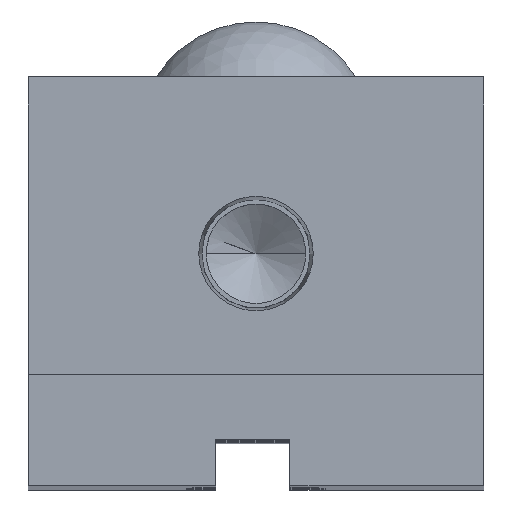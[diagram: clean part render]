
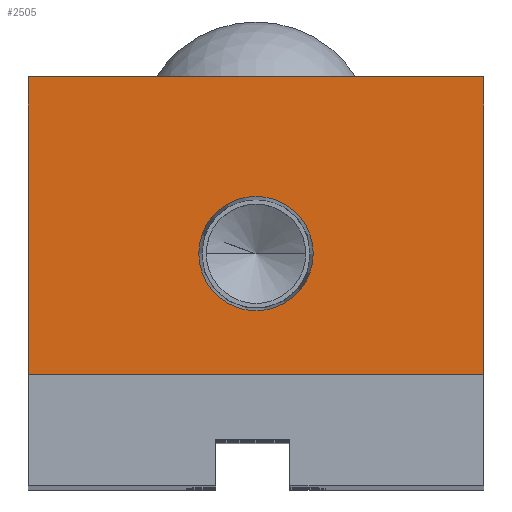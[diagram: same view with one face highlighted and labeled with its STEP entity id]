
A CAD part, top view. The second image highlights one B-rep face of the part: STEP entity #2505.
In plain terms, the highlighted planar face has unit normal (0, 0, 1).
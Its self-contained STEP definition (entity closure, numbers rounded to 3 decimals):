
#109 = DIRECTION ( 'NONE',  ( -1., 0., 0. ) ) ;
#134 = EDGE_CURVE ( 'NONE', #5770, #3938, #3999, .T. ) ;
#424 = ORIENTED_EDGE ( 'NONE', *, *, #134, .T. ) ;
#632 = DIRECTION ( 'NONE',  ( 0., 0., 1. ) ) ;
#770 = DIRECTION ( 'NONE',  ( -1., 0., 0. ) ) ;
#775 = AXIS2_PLACEMENT_3D ( 'NONE', #4853, #3510, #770 ) ;
#779 = AXIS2_PLACEMENT_3D ( 'NONE', #2403, #5568, #2871 ) ;
#1172 = ORIENTED_EDGE ( 'NONE', *, *, #2240, .T. ) ;
#1191 = LINE ( 'NONE', #4519, #3610 ) ;
#1295 = CARTESIAN_POINT ( 'NONE',  ( 6.154, 13., 0. ) ) ;
#1748 = EDGE_CURVE ( 'NONE', #5833, #4545, #5828, .T. ) ;
#1754 = VECTOR ( 'NONE', #2266, 1000. ) ;
#1757 = ORIENTED_EDGE ( 'NONE', *, *, #1748, .F. ) ;
#1815 = CARTESIAN_POINT ( 'NONE',  ( 24.5, 0., 0. ) ) ;
#1887 = LINE ( 'NONE', #1815, #1754 ) ;
#1948 = LINE ( 'NONE', #3311, #3037 ) ;
#2240 = EDGE_CURVE ( 'NONE', #3938, #3756, #1948, .T. ) ;
#2266 = DIRECTION ( 'NONE',  ( 1., 0., 0. ) ) ;
#2403 = CARTESIAN_POINT ( 'NONE',  ( 0., 13., 0. ) ) ;
#2479 = ORIENTED_EDGE ( 'NONE', *, *, #4882, .T. ) ;
#2505 = ADVANCED_FACE ( 'NONE', ( #5481, #5222 ), #5306, .F. ) ;
#2718 = ORIENTED_EDGE ( 'NONE', *, *, #4198, .F. ) ;
#2840 = DIRECTION ( 'NONE',  ( 0., 1., 0. ) ) ;
#2871 = DIRECTION ( 'NONE',  ( 1., 0., 0. ) ) ;
#3037 = VECTOR ( 'NONE', #109, 1000. ) ;
#3118 = CARTESIAN_POINT ( 'NONE',  ( 24.5, 32., 0. ) ) ;
#3311 = CARTESIAN_POINT ( 'NONE',  ( -24.5, 32., 0. ) ) ;
#3328 = EDGE_LOOP ( 'NONE', ( #4997, #2479, #424, #1172 ) ) ;
#3365 = CARTESIAN_POINT ( 'NONE',  ( 0., 13., 0. ) ) ;
#3510 = DIRECTION ( 'NONE',  ( 0., 0., -1. ) ) ;
#3549 = CARTESIAN_POINT ( 'NONE',  ( -24.5, 32., 0. ) ) ;
#3610 = VECTOR ( 'NONE', #4967, 1000. ) ;
#3756 = VERTEX_POINT ( 'NONE', #3549 ) ;
#3825 = DIRECTION ( 'NONE',  ( 1., 0., 0. ) ) ;
#3855 = VECTOR ( 'NONE', #2840, 1000. ) ;
#3938 = VERTEX_POINT ( 'NONE', #3118 ) ;
#3961 = VERTEX_POINT ( 'NONE', #5375 ) ;
#3997 = CARTESIAN_POINT ( 'NONE',  ( 24.5, 0., 0. ) ) ;
#3999 = LINE ( 'NONE', #5535, #3855 ) ;
#4007 = EDGE_CURVE ( 'NONE', #3756, #3961, #1191, .T. ) ;
#4198 = EDGE_CURVE ( 'NONE', #4545, #5833, #5440, .T. ) ;
#4221 = EDGE_LOOP ( 'NONE', ( #1757, #2718 ) ) ;
#4519 = CARTESIAN_POINT ( 'NONE',  ( -24.5, 0., 0. ) ) ;
#4545 = VERTEX_POINT ( 'NONE', #4733 ) ;
#4733 = CARTESIAN_POINT ( 'NONE',  ( -6.154, 13., 0. ) ) ;
#4853 = CARTESIAN_POINT ( 'NONE',  ( 0., 0., 0. ) ) ;
#4882 = EDGE_CURVE ( 'NONE', #3961, #5770, #1887, .T. ) ;
#4967 = DIRECTION ( 'NONE',  ( 0., -1., 0. ) ) ;
#4997 = ORIENTED_EDGE ( 'NONE', *, *, #4007, .T. ) ;
#5222 = FACE_OUTER_BOUND ( 'NONE', #3328, .T. ) ;
#5271 = AXIS2_PLACEMENT_3D ( 'NONE', #3365, #632, #3825 ) ;
#5306 = PLANE ( 'NONE',  #775 ) ;
#5375 = CARTESIAN_POINT ( 'NONE',  ( -24.5, 0., 0. ) ) ;
#5440 = CIRCLE ( 'NONE', #779, 6.154 ) ;
#5481 = FACE_BOUND ( 'NONE', #4221, .T. ) ;
#5535 = CARTESIAN_POINT ( 'NONE',  ( 24.5, 32., 0. ) ) ;
#5568 = DIRECTION ( 'NONE',  ( 0., 0., 1. ) ) ;
#5770 = VERTEX_POINT ( 'NONE', #3997 ) ;
#5828 = CIRCLE ( 'NONE', #5271, 6.154 ) ;
#5833 = VERTEX_POINT ( 'NONE', #1295 ) ;
